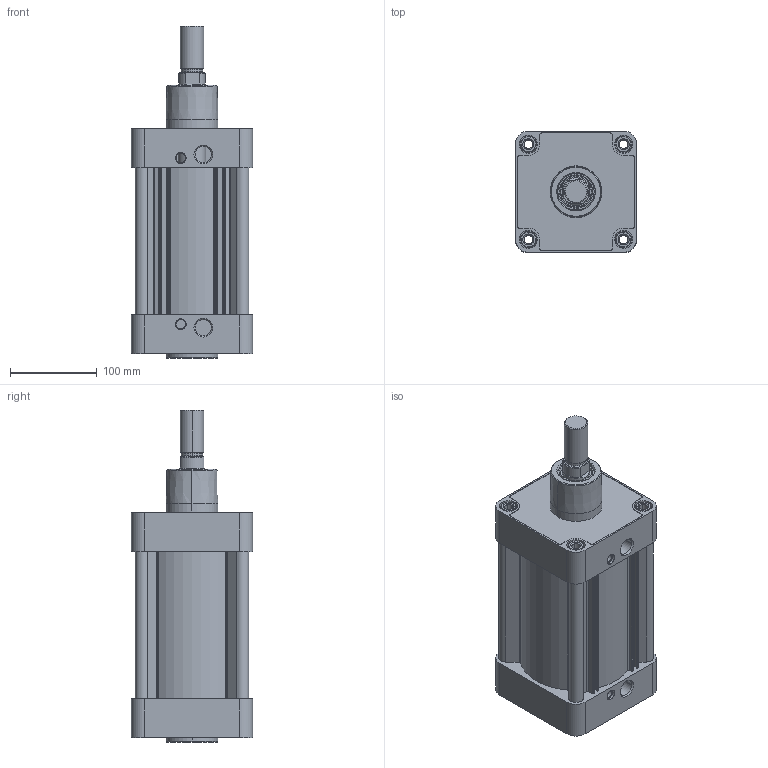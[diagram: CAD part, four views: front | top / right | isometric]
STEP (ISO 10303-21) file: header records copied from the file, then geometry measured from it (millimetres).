
FILE_DESCRIPTION (( 'STEP AP203' ), '1' );
FILE_NAME ('EH1250100G.step', '2014-05-08T06:25:25', ( '' ), ( '' ), 'SwSTEP 2.0', 'SolidWorks 2013', '' );
FILE_SCHEMA (( 'CONFIG_CONTROL_DESIGN' ));
Length unit declared in the file: millimetre
Products named in the file (1): EH1250100G
Bounding box: 140 x 140 x 383.5 mm (x, y, z)
Surface area: 279140.5 mm2 (no closed solid volume)
Topology: 0 solids, 16 shells, 306 faces, 833 edges, 547 vertices
Faces by surface type: cylinder 128, plane 85, cone 80, torus 13
Entity records: 9719 total; most frequent: DIRECTION 1848, CARTESIAN_POINT 1733, ORIENTED_EDGE 1409, EDGE_CURVE 833, AXIS2_PLACEMENT_3D 722, VERTEX_POINT 547, CIRCLE 415, LINE 404
